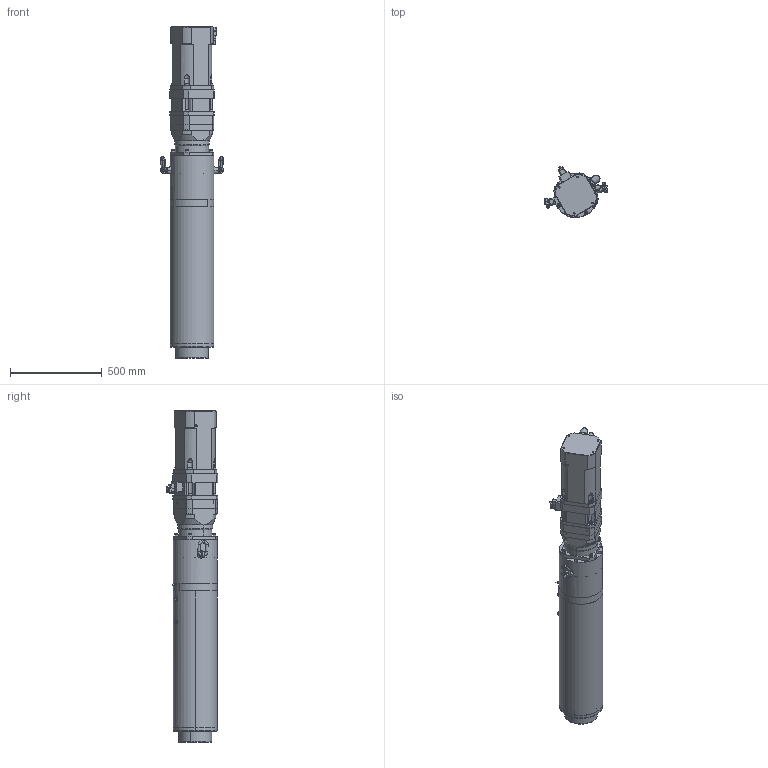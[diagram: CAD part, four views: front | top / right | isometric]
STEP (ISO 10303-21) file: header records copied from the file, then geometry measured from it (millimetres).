
FILE_DESCRIPTION (( 'STEP AP203' ), '1' );
FILE_NAME ('LN5I2000-035-010S.STEP', '2016-06-21T13:06:33', ( 'paulsen' ), ( '' ), 'SwSTEP 2.0', 'SolidWorks 2013', '' );
FILE_SCHEMA (( 'CONFIG_CONTROL_DESIGN' ));
Length unit declared in the file: millimetre
Products named in the file (1): LN5I2000-035-010S
Bounding box: 345.55 x 280.49 x 1811.5 mm (x, y, z)
Surface area: 3503918.2 mm2 (no closed solid volume)
Topology: 0 solids, 41 shells, 1641 faces, 3921 edges, 2394 vertices
Faces by surface type: cylinder 664, plane 637, cone 244, torus 90, bspline 6
Entity records: 48868 total; most frequent: CARTESIAN_POINT 10517, DIRECTION 8490, ORIENTED_EDGE 7522, EDGE_CURVE 3767, AXIS2_PLACEMENT_3D 3287, VERTEX_POINT 2394, EDGE_LOOP 1929, VECTOR 1916
